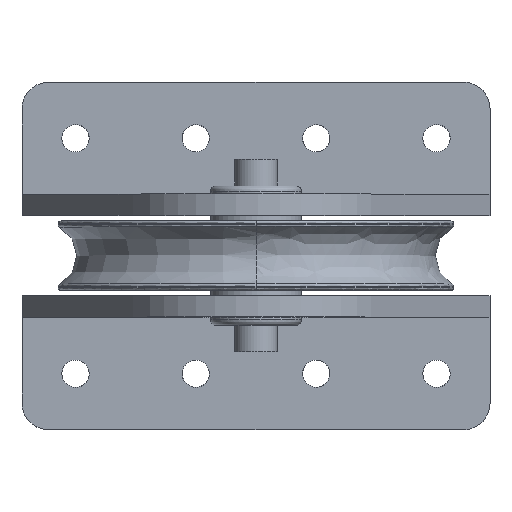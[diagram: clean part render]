
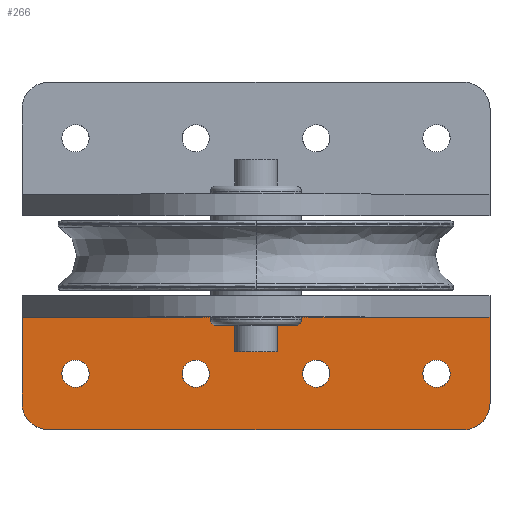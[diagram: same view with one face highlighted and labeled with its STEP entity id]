
A CAD part, top view. The second image highlights one B-rep face of the part: STEP entity #266.
In plain terms, the highlighted free-form (B-spline) face has degree [1, 1] with [2, 2] control points.
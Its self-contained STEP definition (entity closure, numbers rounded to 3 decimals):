
#147=FACE_BOUND($,#819,.T.);
#148=FACE_BOUND($,#820,.T.);
#149=FACE_BOUND($,#821,.T.);
#150=FACE_BOUND($,#822,.T.);
#266=ADVANCED_FACE($,(#532,#147,#148,#149,#150),#3479,.T.);
#532=FACE_OUTER_BOUND($,#818,.T.);
#818=EDGE_LOOP($,(#1427,#1428,#1429,#1430,#1431,#1432));
#819=EDGE_LOOP($,(#1433,#1434));
#820=EDGE_LOOP($,(#1435,#1436));
#821=EDGE_LOOP($,(#1437,#1438));
#822=EDGE_LOOP($,(#1439,#1440));
#1427=ORIENTED_EDGE($,*,*,#2463,.F.);
#1428=ORIENTED_EDGE($,*,*,#2461,.F.);
#1429=ORIENTED_EDGE($,*,*,#2467,.F.);
#1430=ORIENTED_EDGE($,*,*,#2465,.F.);
#1431=ORIENTED_EDGE($,*,*,#2477,.F.);
#1432=ORIENTED_EDGE($,*,*,#2469,.F.);
#1433=ORIENTED_EDGE($,*,*,#2495,.F.);
#1434=ORIENTED_EDGE($,*,*,#2480,.F.);
#1435=ORIENTED_EDGE($,*,*,#2498,.F.);
#1436=ORIENTED_EDGE($,*,*,#2483,.F.);
#1437=ORIENTED_EDGE($,*,*,#2501,.F.);
#1438=ORIENTED_EDGE($,*,*,#2486,.F.);
#1439=ORIENTED_EDGE($,*,*,#2504,.F.);
#1440=ORIENTED_EDGE($,*,*,#2489,.F.);
#2461=EDGE_CURVE($,#3003,#3004,#3575,.T.);
#2463=EDGE_CURVE($,#3004,#3010,#9859,.T.);
#2465=EDGE_CURVE($,#3005,#3006,#3576,.T.);
#2467=EDGE_CURVE($,#3006,#3003,#9862,.T.);
#2469=EDGE_CURVE($,#3010,#3009,#9864,.T.);
#2477=EDGE_CURVE($,#3009,#3005,#9872,.T.);
#2480=EDGE_CURVE($,#3013,#3026,#3578,.T.);
#2483=EDGE_CURVE($,#3016,#3028,#3580,.T.);
#2486=EDGE_CURVE($,#3019,#3030,#3582,.T.);
#2489=EDGE_CURVE($,#3022,#3032,#3584,.T.);
#2495=EDGE_CURVE($,#3026,#3013,#3588,.T.);
#2498=EDGE_CURVE($,#3028,#3016,#3590,.T.);
#2501=EDGE_CURVE($,#3030,#3019,#3592,.T.);
#2504=EDGE_CURVE($,#3032,#3022,#3594,.T.);
#3003=VERTEX_POINT($,#5528);
#3004=VERTEX_POINT($,#5529);
#3005=VERTEX_POINT($,#5530);
#3006=VERTEX_POINT($,#5531);
#3009=VERTEX_POINT($,#5534);
#3010=VERTEX_POINT($,#5535);
#3013=VERTEX_POINT($,#5538);
#3016=VERTEX_POINT($,#5541);
#3019=VERTEX_POINT($,#5544);
#3022=VERTEX_POINT($,#5547);
#3026=VERTEX_POINT($,#5551);
#3028=VERTEX_POINT($,#5553);
#3030=VERTEX_POINT($,#5555);
#3032=VERTEX_POINT($,#5557);
#3479=B_SPLINE_SURFACE_WITH_KNOTS($,1,1,((#5368,#5369),(#5370,#5371)),.UNSPECIFIED.,
.F.,.F.,.F.,(2,2),(2,2),(-42.,0.),(-10.,165.),.UNSPECIFIED.);
#3575=(
BOUNDED_CURVE()
B_SPLINE_CURVE(2,(#5066,#5067,#5068),.UNSPECIFIED.,.F.,.F.)
B_SPLINE_CURVE_WITH_KNOTS((3,3),(0.,15.708),.UNSPECIFIED.)
CURVE()
GEOMETRIC_REPRESENTATION_ITEM()
RATIONAL_B_SPLINE_CURVE((1.,0.707,1.))
REPRESENTATION_ITEM($)
);
#3576=(
BOUNDED_CURVE()
B_SPLINE_CURVE(2,(#5075,#5076,#5077),.UNSPECIFIED.,.F.,.F.)
B_SPLINE_CURVE_WITH_KNOTS((3,3),(0.,15.708),.UNSPECIFIED.)
CURVE()
GEOMETRIC_REPRESENTATION_ITEM()
RATIONAL_B_SPLINE_CURVE((1.,0.707,1.))
REPRESENTATION_ITEM($)
);
#3578=(
BOUNDED_CURVE()
B_SPLINE_CURVE(2,(#5111,#5112,#5113,#5114,#5115),.UNSPECIFIED.,.F.,.F.)
B_SPLINE_CURVE_WITH_KNOTS((3,2,3),(-32.041,-24.03,-16.02),
.UNSPECIFIED.)
CURVE()
GEOMETRIC_REPRESENTATION_ITEM()
RATIONAL_B_SPLINE_CURVE((1.,0.707,1.,0.707,1.))
REPRESENTATION_ITEM($)
);
#3580=(
BOUNDED_CURVE()
B_SPLINE_CURVE(2,(#5123,#5124,#5125,#5126,#5127),.UNSPECIFIED.,.F.,.F.)
B_SPLINE_CURVE_WITH_KNOTS((3,2,3),(-32.041,-24.03,-16.02),
.UNSPECIFIED.)
CURVE()
GEOMETRIC_REPRESENTATION_ITEM()
RATIONAL_B_SPLINE_CURVE((1.,0.707,1.,0.707,1.))
REPRESENTATION_ITEM($)
);
#3582=(
BOUNDED_CURVE()
B_SPLINE_CURVE(2,(#5135,#5136,#5137,#5138,#5139),.UNSPECIFIED.,.F.,.F.)
B_SPLINE_CURVE_WITH_KNOTS((3,2,3),(-32.041,-24.03,-16.02),
.UNSPECIFIED.)
CURVE()
GEOMETRIC_REPRESENTATION_ITEM()
RATIONAL_B_SPLINE_CURVE((1.,0.707,1.,0.707,1.))
REPRESENTATION_ITEM($)
);
#3584=(
BOUNDED_CURVE()
B_SPLINE_CURVE(2,(#5147,#5148,#5149,#5150,#5151),.UNSPECIFIED.,.F.,.F.)
B_SPLINE_CURVE_WITH_KNOTS((3,2,3),(-32.041,-24.03,-16.02),
.UNSPECIFIED.)
CURVE()
GEOMETRIC_REPRESENTATION_ITEM()
RATIONAL_B_SPLINE_CURVE((1.,0.707,1.,0.707,1.))
REPRESENTATION_ITEM($)
);
#3588=(
BOUNDED_CURVE()
B_SPLINE_CURVE(2,(#5171,#5172,#5173,#5174,#5175),.UNSPECIFIED.,.F.,.F.)
B_SPLINE_CURVE_WITH_KNOTS((3,2,3),(-16.02,-8.01,0.),
.UNSPECIFIED.)
CURVE()
GEOMETRIC_REPRESENTATION_ITEM()
RATIONAL_B_SPLINE_CURVE((1.,0.707,1.,0.707,1.))
REPRESENTATION_ITEM($)
);
#3590=(
BOUNDED_CURVE()
B_SPLINE_CURVE(2,(#5183,#5184,#5185,#5186,#5187),.UNSPECIFIED.,.F.,.F.)
B_SPLINE_CURVE_WITH_KNOTS((3,2,3),(-16.02,-8.01,0.),
.UNSPECIFIED.)
CURVE()
GEOMETRIC_REPRESENTATION_ITEM()
RATIONAL_B_SPLINE_CURVE((1.,0.707,1.,0.707,1.))
REPRESENTATION_ITEM($)
);
#3592=(
BOUNDED_CURVE()
B_SPLINE_CURVE(2,(#5195,#5196,#5197,#5198,#5199),.UNSPECIFIED.,.F.,.F.)
B_SPLINE_CURVE_WITH_KNOTS((3,2,3),(-16.02,-8.01,0.),
.UNSPECIFIED.)
CURVE()
GEOMETRIC_REPRESENTATION_ITEM()
RATIONAL_B_SPLINE_CURVE((1.,0.707,1.,0.707,1.))
REPRESENTATION_ITEM($)
);
#3594=(
BOUNDED_CURVE()
B_SPLINE_CURVE(2,(#5207,#5208,#5209,#5210,#5211),.UNSPECIFIED.,.F.,.F.)
B_SPLINE_CURVE_WITH_KNOTS((3,2,3),(-16.02,-8.01,0.),
.UNSPECIFIED.)
CURVE()
GEOMETRIC_REPRESENTATION_ITEM()
RATIONAL_B_SPLINE_CURVE((1.,0.707,1.,0.707,1.))
REPRESENTATION_ITEM($)
);
#5066=CARTESIAN_POINT($,(-142.453,62.831,-76.));
#5067=CARTESIAN_POINT($,(-152.453,62.831,-76.));
#5068=CARTESIAN_POINT($,(-152.453,72.831,-76.));
#5071=CARTESIAN_POINT($,(-152.453,72.831,-76.));
#5072=CARTESIAN_POINT($,(-152.453,104.831,-76.));
#5075=CARTESIAN_POINT($,(22.547,72.831,-76.));
#5076=CARTESIAN_POINT($,(22.547,62.831,-76.));
#5077=CARTESIAN_POINT($,(12.547,62.831,-76.));
#5080=CARTESIAN_POINT($,(12.547,62.831,-76.));
#5081=CARTESIAN_POINT($,(-142.453,62.831,-76.));
#5084=CARTESIAN_POINT($,(-152.453,104.831,-76.));
#5085=CARTESIAN_POINT($,(-94.12,104.831,-76.));
#5086=CARTESIAN_POINT($,(-35.787,104.831,-76.));
#5087=CARTESIAN_POINT($,(22.547,104.831,-76.));
#5102=CARTESIAN_POINT($,(22.547,104.831,-76.));
#5103=CARTESIAN_POINT($,(22.547,72.831,-76.));
#5111=CARTESIAN_POINT($,(7.647,83.831,-76.));
#5112=CARTESIAN_POINT($,(7.647,88.931,-76.));
#5113=CARTESIAN_POINT($,(2.547,88.931,-76.));
#5114=CARTESIAN_POINT($,(-2.553,88.931,-76.));
#5115=CARTESIAN_POINT($,(-2.553,83.831,-76.));
#5123=CARTESIAN_POINT($,(-37.353,83.831,-76.));
#5124=CARTESIAN_POINT($,(-37.353,88.931,-76.));
#5125=CARTESIAN_POINT($,(-42.453,88.931,-76.));
#5126=CARTESIAN_POINT($,(-47.553,88.931,-76.));
#5127=CARTESIAN_POINT($,(-47.553,83.831,-76.));
#5135=CARTESIAN_POINT($,(-82.353,83.831,-76.));
#5136=CARTESIAN_POINT($,(-82.353,88.931,-76.));
#5137=CARTESIAN_POINT($,(-87.453,88.931,-76.));
#5138=CARTESIAN_POINT($,(-92.553,88.931,-76.));
#5139=CARTESIAN_POINT($,(-92.553,83.831,-76.));
#5147=CARTESIAN_POINT($,(-127.353,83.831,-76.));
#5148=CARTESIAN_POINT($,(-127.353,88.931,-76.));
#5149=CARTESIAN_POINT($,(-132.453,88.931,-76.));
#5150=CARTESIAN_POINT($,(-137.553,88.931,-76.));
#5151=CARTESIAN_POINT($,(-137.553,83.831,-76.));
#5171=CARTESIAN_POINT($,(-2.553,83.831,-76.));
#5172=CARTESIAN_POINT($,(-2.553,78.731,-76.));
#5173=CARTESIAN_POINT($,(2.547,78.731,-76.));
#5174=CARTESIAN_POINT($,(7.647,78.731,-76.));
#5175=CARTESIAN_POINT($,(7.647,83.831,-76.));
#5183=CARTESIAN_POINT($,(-47.553,83.831,-76.));
#5184=CARTESIAN_POINT($,(-47.553,78.731,-76.));
#5185=CARTESIAN_POINT($,(-42.453,78.731,-76.));
#5186=CARTESIAN_POINT($,(-37.353,78.731,-76.));
#5187=CARTESIAN_POINT($,(-37.353,83.831,-76.));
#5195=CARTESIAN_POINT($,(-92.553,83.831,-76.));
#5196=CARTESIAN_POINT($,(-92.553,78.731,-76.));
#5197=CARTESIAN_POINT($,(-87.453,78.731,-76.));
#5198=CARTESIAN_POINT($,(-82.353,78.731,-76.));
#5199=CARTESIAN_POINT($,(-82.353,83.831,-76.));
#5207=CARTESIAN_POINT($,(-137.553,83.831,-76.));
#5208=CARTESIAN_POINT($,(-137.553,78.731,-76.));
#5209=CARTESIAN_POINT($,(-132.453,78.731,-76.));
#5210=CARTESIAN_POINT($,(-127.353,78.731,-76.));
#5211=CARTESIAN_POINT($,(-127.353,83.831,-76.));
#5368=CARTESIAN_POINT($,(-152.453,104.831,-76.));
#5369=CARTESIAN_POINT($,(22.547,104.831,-76.));
#5370=CARTESIAN_POINT($,(-152.453,62.831,-76.));
#5371=CARTESIAN_POINT($,(22.547,62.831,-76.));
#5528=CARTESIAN_POINT($,(-142.453,62.831,-76.));
#5529=CARTESIAN_POINT($,(-152.453,72.831,-76.));
#5530=CARTESIAN_POINT($,(22.547,72.831,-76.));
#5531=CARTESIAN_POINT($,(12.547,62.831,-76.));
#5534=CARTESIAN_POINT($,(22.547,104.831,-76.));
#5535=CARTESIAN_POINT($,(-152.453,104.831,-76.));
#5538=CARTESIAN_POINT($,(7.647,83.831,-76.));
#5541=CARTESIAN_POINT($,(-37.353,83.831,-76.));
#5544=CARTESIAN_POINT($,(-82.353,83.831,-76.));
#5547=CARTESIAN_POINT($,(-127.353,83.831,-76.));
#5551=CARTESIAN_POINT($,(-2.553,83.831,-76.));
#5553=CARTESIAN_POINT($,(-47.553,83.831,-76.));
#5555=CARTESIAN_POINT($,(-92.553,83.831,-76.));
#5557=CARTESIAN_POINT($,(-137.553,83.831,-76.));
#9859=B_SPLINE_CURVE_WITH_KNOTS($,1,(#5071,#5072),.UNSPECIFIED.,.F.,.F.,
(2,2),(410.,442.),.UNSPECIFIED.);
#9862=B_SPLINE_CURVE_WITH_KNOTS($,1,(#5080,#5081),.UNSPECIFIED.,.F.,.F.,
(2,2),(235.,390.),.UNSPECIFIED.);
#9864=B_SPLINE_CURVE_WITH_KNOTS($,3,(#5084,#5085,#5086,#5087),.UNSPECIFIED.,
.F.,.F.,(4,4),(-175.,0.),.UNSPECIFIED.);
#9872=B_SPLINE_CURVE_WITH_KNOTS($,1,(#5102,#5103),.UNSPECIFIED.,.F.,.F.,
(2,2),(633.,665.),.UNSPECIFIED.);
